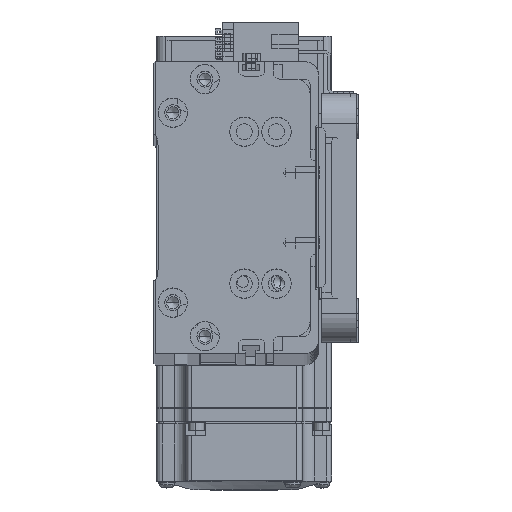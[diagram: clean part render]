
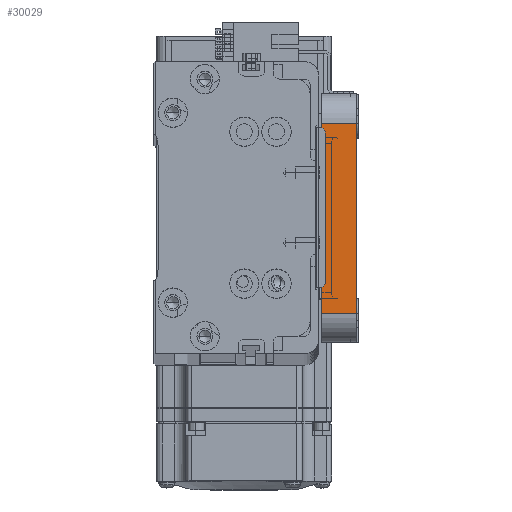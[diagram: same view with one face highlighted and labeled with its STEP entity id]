
A CAD part, top view. The second image highlights one B-rep face of the part: STEP entity #30029.
In plain terms, the highlighted planar face has unit normal (0, 0, 1) as drawn and (-1, 0, 0) by its records, which use the part's own axes.
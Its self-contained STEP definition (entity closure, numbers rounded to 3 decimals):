
#1521 = CARTESIAN_POINT ( 'NONE',  ( -55., 32.5, 12. ) ) ;
#1982 = VECTOR ( 'NONE', #44232, 1000. ) ;
#7036 = VERTEX_POINT ( 'NONE', #47828 ) ;
#7870 = EDGE_CURVE ( 'NONE', #7036, #65296, #76418, .T. ) ;
#9185 = VECTOR ( 'NONE', #42504, 1000. ) ;
#12572 = ORIENTED_EDGE ( 'NONE', *, *, #44508, .T. ) ;
#12942 = VECTOR ( 'NONE', #25611, 1000. ) ;
#13078 = EDGE_LOOP ( 'NONE', ( #52341, #70530, #72184, #12572 ) ) ;
#18345 = LINE ( 'NONE', #19519, #1982 ) ;
#19519 = CARTESIAN_POINT ( 'NONE',  ( -55., -32.5, 12. ) ) ;
#24356 = DIRECTION ( 'NONE',  ( 1., 0., 0. ) ) ;
#25611 = DIRECTION ( 'NONE',  ( 0., -1., 0. ) ) ;
#27012 = VERTEX_POINT ( 'NONE', #1521 ) ;
#27496 = LINE ( 'NONE', #36283, #9185 ) ;
#29055 = DIRECTION ( 'NONE',  ( 0., 0., -1. ) ) ;
#30029 = ADVANCED_FACE ( 'NONE', ( #37162 ), #60949, .F. ) ;
#30221 = LINE ( 'NONE', #53512, #77401 ) ;
#36283 = CARTESIAN_POINT ( 'NONE',  ( -55., -42.5, 12. ) ) ;
#37108 = CARTESIAN_POINT ( 'NONE',  ( -55., -32.5, 0. ) ) ;
#37162 = FACE_OUTER_BOUND ( 'NONE', #13078, .T. ) ;
#38086 = VERTEX_POINT ( 'NONE', #45359 ) ;
#42504 = DIRECTION ( 'NONE',  ( 0., -1., 0. ) ) ;
#44232 = DIRECTION ( 'NONE',  ( 0., 0., 1. ) ) ;
#44508 = EDGE_CURVE ( 'NONE', #27012, #7036, #30221, .T. ) ;
#45359 = CARTESIAN_POINT ( 'NONE',  ( -55., -32.5, 12. ) ) ;
#47828 = CARTESIAN_POINT ( 'NONE',  ( -55., 32.5, 0. ) ) ;
#52341 = ORIENTED_EDGE ( 'NONE', *, *, #7870, .T. ) ;
#53512 = CARTESIAN_POINT ( 'NONE',  ( -55., 32.5, 12. ) ) ;
#54967 = CARTESIAN_POINT ( 'NONE',  ( -55., -42.5, 12. ) ) ;
#60949 = PLANE ( 'NONE',  #69184 ) ;
#64123 = EDGE_CURVE ( 'NONE', #27012, #38086, #27496, .T. ) ;
#65296 = VERTEX_POINT ( 'NONE', #37108 ) ;
#67341 = DIRECTION ( 'NONE',  ( 0., 0., -1. ) ) ;
#68638 = CARTESIAN_POINT ( 'NONE',  ( -55., -42.5, 0. ) ) ;
#69184 = AXIS2_PLACEMENT_3D ( 'NONE', #54967, #24356, #67341 ) ;
#70530 = ORIENTED_EDGE ( 'NONE', *, *, #73108, .T. ) ;
#72184 = ORIENTED_EDGE ( 'NONE', *, *, #64123, .F. ) ;
#73108 = EDGE_CURVE ( 'NONE', #65296, #38086, #18345, .T. ) ;
#76418 = LINE ( 'NONE', #68638, #12942 ) ;
#77401 = VECTOR ( 'NONE', #29055, 1000. ) ;
